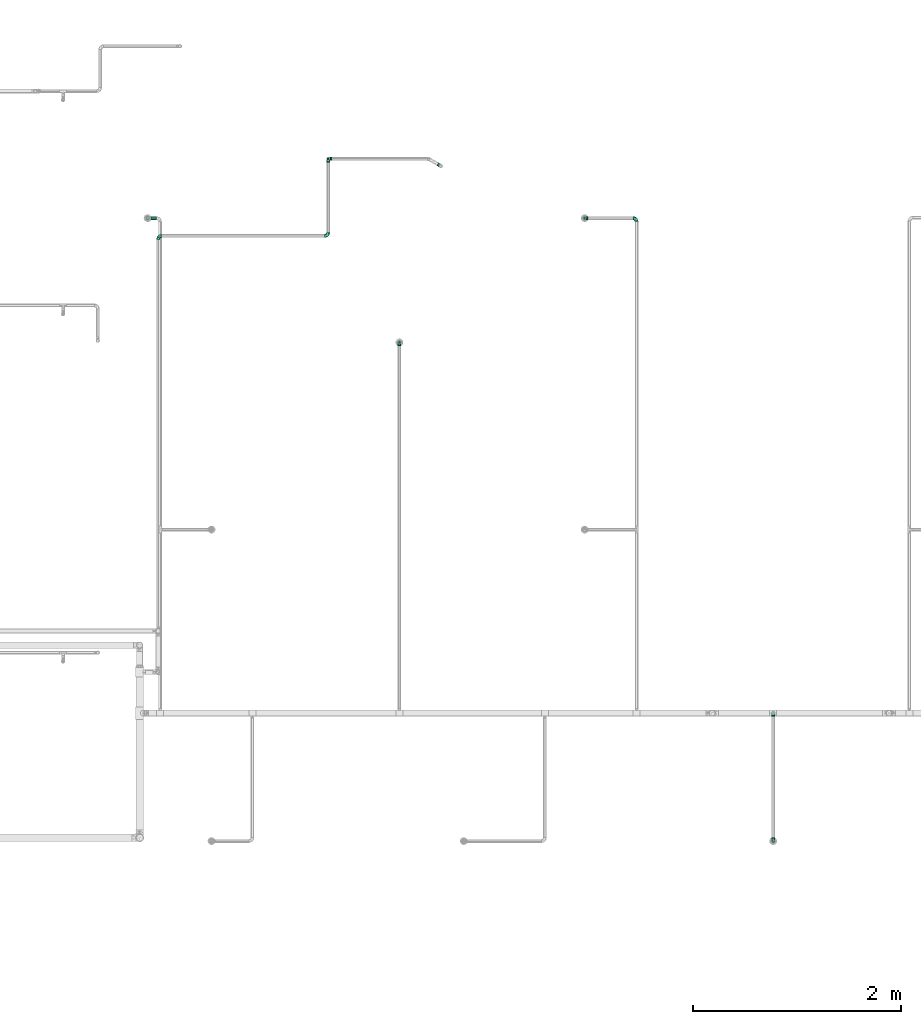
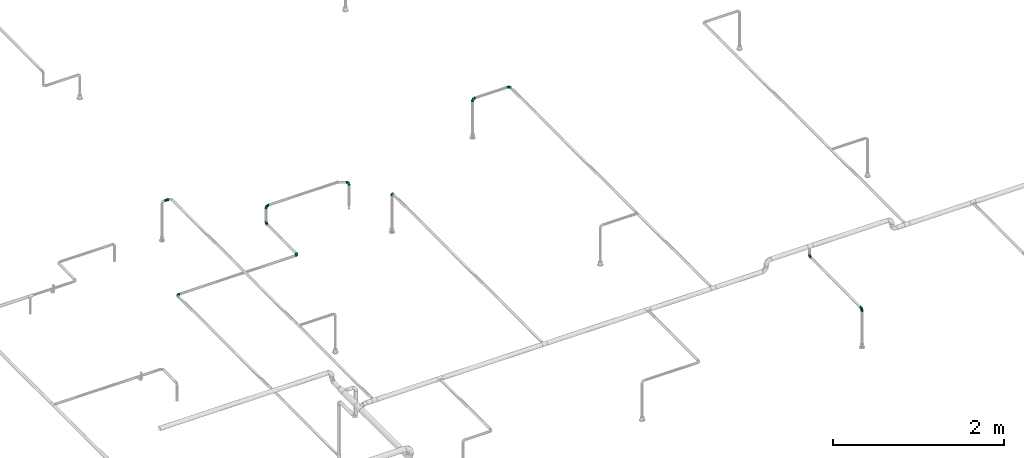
# One storey, part 70 of 95: 14 flow fittings, 1 flow segment.
"""IFC2X3 building model written with IfcOpenShell, lengths in millimetres."""

from ifc_helpers import new_model, entity, si_unit, converted_unit, derived_unit, direction, frame, origin_with_axes, origin_2d_with_axis, place, context, subcontext, project, spatial, hollow_circle, extrude, open_shell, surface_model, source, transform, mapped, type_object, element, save


model = new_model("IFC2X3")

# Units and contexts
model_context = context("Model", 3, precision=0.01, world=frame((0.0, 4.29681676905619e-09, 0.0)), true_north=direction((4.01073788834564e-13, 1.0)))
plan_context = context("Plan", 3, precision=0.01, world=frame((0.0, 4.29681676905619e-09, 0.0)), true_north=direction((4.01073788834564e-13, 1.0)))
body_context = subcontext(model_context, "Body", "Model", "MODEL_VIEW")
ifc_project = project(units=[converted_unit("PLANEANGLEUNIT", "DEGREE", entity("IfcPositiveLengthMeasure", 0.0174532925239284), si_unit("PLANEANGLEUNIT", "RADIAN"), dimensions=[0, 0, 0, 0, 0, 0, 0]), si_unit("AREAUNIT", "SQUARE_METRE"), si_unit("LENGTHUNIT", "METRE", prefix="MILLI"), si_unit("MASSUNIT", "GRAM", prefix="KILO"), si_unit("POWERUNIT", "WATT"), si_unit("PRESSUREUNIT", "PASCAL"), si_unit("FORCEUNIT", "NEWTON", prefix="KILO"), si_unit("ELECTRICVOLTAGEUNIT", "VOLT"), si_unit("ELECTRICCURRENTUNIT", "AMPERE"), si_unit("THERMODYNAMICTEMPERATUREUNIT", "DEGREE_CELSIUS"), si_unit("TIMEUNIT", "SECOND"), si_unit("VOLUMEUNIT", "CUBIC_METRE"), derived_unit("LINEARVELOCITYUNIT", [(si_unit("LENGTHUNIT", "METRE"), 1), (si_unit("TIMEUNIT", "SECOND"), -1)]), derived_unit("VOLUMETRICFLOWRATEUNIT", [(si_unit("VOLUMEUNIT", "CUBIC_METRE"), 1), (si_unit("TIMEUNIT", "SECOND"), -1)]), derived_unit("THERMALTRANSMITTANCEUNIT", [(si_unit("POWERUNIT", "WATT"), 1), (si_unit("THERMODYNAMICTEMPERATUREUNIT", "KELVIN"), -1), (si_unit("AREAUNIT", "SQUARE_METRE"), -1)]), derived_unit("SOUNDPRESSUREUNIT", [(si_unit("PRESSUREUNIT", "PASCAL"), 1)])], contexts=[model_context, plan_context])

# Site, building, storey
site_placement = place(None, frame((0.0, -4.29681676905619e-09, 0.0), z_axis=(0.0, 0.0, 1.0), x_axis=(1.0, 0.0, 0.0)))
site = spatial("IfcSite", under=ifc_project, at=site_placement, CompositionType="ELEMENT")
building_placement = place(site_placement, frame((0.0, 4.29681676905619e-09, 0.0), z_axis=(0.0, 0.0, 1.0), x_axis=(1.0, 0.0, 0.0)))
building = spatial("IfcBuilding", under=site, at=building_placement, Name="mc-building", CompositionType="ELEMENT")
storey_placement = place(building_placement, frame((0.0, 0.0, 210900.0), z_axis=(0.0, 0.0, 1.0), x_axis=(1.0, 0.0, 0.0)))
storey = spatial("IfcBuildingStorey", under=building, at=storey_placement, Name="Nivå F", CompositionType="ELEMENT", Elevation=210900.0)

# Flow fittings
pipe_fitting_type_1 = type_object("IfcPipeFittingType", Name="magi_pipe_fe_reducer_centric_short_NOR", PredefinedType="TRANSITION")
shared_shape_1 = source(origin_with_axes(), body_context, "Body", "SurfaceModel", [
    surface_model("IfcShellBasedSurfaceModel", [(14.4, 5.35, -9.26647), (14.4, 0.0, -10.7), (14.4, 2.76936, -10.33541), (14.4, 10.33541, -2.76936), (14.4, 7.56604, -7.56604), (14.4, -10.33541, -2.76936), (14.4, 9.26647, -5.35), (14.4, 0.0, 10.7), (14.4, -5.35, -9.26647), (14.4, -2.76936, -10.33541), (14.4, -7.56604, -7.56604), (14.4, -9.26647, -5.35), (14.4, 10.7, 0.0), (14.4, 10.33541, 2.76936), (14.4, 9.26647, 5.35), (14.4, 7.56604, 7.56604), (14.4, 2.76936, 10.33541), (14.4, 5.35, 9.26647), (14.4, -10.33541, 2.76936), (14.4, -7.56604, 7.56604), (14.4, -9.26647, 5.35), (14.4, -10.7, 0.0), (14.4, -2.76936, 10.33541), (14.4, -5.35, 9.26647), (12.4, 2.76936, 10.33541), (12.4, -10.33541, -2.76936), (12.4, 0.0, 10.7), (12.4, 5.35, 9.26647), (12.4, 7.56604, 7.56604), (12.4, 9.26647, 5.35), (12.4, 10.33541, 2.76936), (12.4, -10.33541, 2.76936), (12.4, -2.76936, 10.33541), (12.4, -7.56604, 7.56604), (12.4, -5.35, 9.26647), (12.4, -9.26647, 5.35), (12.4, -10.7, 0.0), (12.4, 10.33541, -2.76936), (12.4, 5.35, -9.26647), (12.4, 9.26647, -5.35), (12.4, 7.56604, -7.56604), (12.4, 2.76936, -10.33541), (12.4, -9.26647, -5.35), (12.4, -5.35, -9.26647), (12.4, -7.56604, -7.56604), (12.4, 0.0, -10.7), (12.4, -2.76936, -10.33541), (12.4, 10.7, 0.0), (-2.0, 11.9501, 11.9501), (-2.0, 0.0, 16.9), (-2.0, 4.37404, 16.32415), (-2.0, 8.45, 14.63583), (-2.0, 14.63583, 8.45), (-2.0, 16.32415, 4.37404), (-2.0, -16.32415, 4.37404), (-2.0, -8.45, 14.63583), (-2.0, -14.63583, 8.45), (-2.0, -11.9501, 11.9501), (-2.0, -4.37404, 16.32415), (-2.0, -16.32415, -4.37404), (-2.0, -16.9, 0.0), (-2.0, -8.45, -14.63583), (-2.0, 16.32415, -4.37404), (-2.0, 11.9501, -11.9501), (-2.0, 14.63583, -8.45), (-2.0, 8.45, -14.63583), (-2.0, 4.37404, -16.32415), (-2.0, 0.0, -16.9), (-2.0, -11.9501, -11.9501), (-2.0, -14.63583, -8.45), (-2.0, -4.37404, -16.32415), (-2.0, 16.9, 0.0), (0.0, 4.37404, -16.32415), (0.0, 8.45, -14.63583), (0.0, 11.9501, -11.9501), (0.0, 0.0, -16.9), (0.0, 16.32415, -4.37404), (0.0, 16.32415, 4.37404), (0.0, 14.63583, -8.45), (0.0, -8.45, -14.63583), (0.0, -4.37404, -16.32415), (0.0, -11.9501, -11.9501), (0.0, -16.32415, -4.37404), (0.0, -14.63583, -8.45), (0.0, -16.32415, 4.37404), (0.0, 16.9, 0.0), (0.0, 14.63583, 8.45), (0.0, 11.9501, 11.9501), (0.0, 4.37404, 16.32415), (0.0, 8.45, 14.63583), (0.0, 0.0, 16.9), (0.0, -14.63583, 8.45), (0.0, -16.9, 0.0), (0.0, -8.45, 14.63583), (0.0, -11.9501, 11.9501), (0.0, -4.37404, 16.32415), (12.4, 9.3625, -2.31662), (0.0, 14.42505, -5.97505), (0.0, 15.66253, -2.98753), (12.4, -6.6875, -6.94985), (0.0, -13.18758, -8.96258), (0.0, 2.98753, -15.66253), (12.4, 0.0, -9.26647), (12.4, 6.6875, -6.94985), (0.0, 8.96258, -13.18758), (12.4, -9.3625, -2.31662), (0.0, -15.66253, -2.98753), (0.0, -14.42505, -5.97505), (0.0, 5.97505, -14.42505), (0.0, -2.98753, -15.66253), (0.0, -8.96258, -13.18758), (0.0, 13.18758, -8.96258), (12.4, 8.025, -4.63324), (12.4, -2.675, -9.26647), (12.4, 2.675, -9.26647), (0.0, -5.97505, -14.42505), (12.4, -8.025, -4.63324), (12.4, -9.3625, 2.31662), (0.0, -14.42505, 5.97505), (0.0, -15.66253, 2.98753), (12.4, 6.6875, 6.94985), (0.0, 13.18758, 8.96258), (0.0, -2.98753, 15.66253), (12.4, 0.0, 9.26647), (12.4, -6.6875, 6.94985), (0.0, -8.96258, 13.18758), (12.4, 9.3625, 2.31662), (0.0, 15.66253, 2.98753), (0.0, 14.42505, 5.97505), (0.0, -5.97505, 14.42505), (0.0, 2.98753, 15.66253), (0.0, 8.96258, 13.18758), (0.0, -13.18758, 8.96258), (12.4, -8.025, 4.63324), (12.4, 2.675, 9.26647), (12.4, -2.675, 9.26647), (0.0, 5.97505, 14.42505), (12.4, 8.025, 4.63324)], [open_shell([[[0, 1, 2]], [[3, 0, 4]], [[5, 0, 3]], [[3, 4, 6]], [[7, 5, 3]], [[1, 8, 9]], [[1, 0, 8]], [[10, 5, 11]], [[5, 10, 8]], [[0, 5, 8]], [[3, 12, 13]], [[13, 14, 15]], [[13, 15, 16]], [[7, 3, 16]], [[16, 15, 17]], [[7, 18, 5]], [[18, 19, 20]], [[21, 5, 18]], [[19, 22, 23]], [[22, 19, 18]], [[7, 22, 18]], [[13, 16, 3]], [[24, 25, 26]], [[27, 25, 24]], [[28, 29, 30]], [[28, 25, 27]], [[31, 26, 25]], [[32, 33, 34]], [[33, 32, 31]], [[33, 31, 35]], [[32, 26, 31]], [[31, 25, 36]], [[30, 37, 28]], [[25, 28, 37]], [[38, 37, 39]], [[37, 38, 25]], [[38, 39, 40]], [[41, 25, 38]], [[42, 43, 44]], [[43, 42, 25]], [[43, 45, 46]], [[43, 25, 41]], [[41, 45, 43]], [[37, 30, 47]], [[25, 5, 36]], [[42, 11, 25]], [[8, 44, 43]], [[42, 44, 10]], [[9, 43, 46]], [[25, 11, 5]], [[5, 21, 36]], [[9, 8, 43]], [[10, 44, 8]], [[10, 11, 42]], [[1, 9, 46]], [[46, 45, 1]], [[41, 2, 45]], [[38, 0, 41]], [[6, 40, 39]], [[38, 40, 4]], [[3, 39, 37]], [[38, 4, 0]], [[0, 2, 41]], [[12, 3, 37]], [[6, 39, 3]], [[6, 4, 40]], [[47, 12, 37]], [[45, 2, 1]], [[30, 13, 47]], [[29, 14, 30]], [[17, 28, 27]], [[29, 28, 15]], [[16, 27, 24]], [[30, 14, 13]], [[13, 12, 47]], [[16, 17, 27]], [[15, 28, 17]], [[15, 14, 29]], [[7, 16, 24]], [[24, 26, 7]], [[32, 22, 26]], [[34, 23, 32]], [[20, 33, 35]], [[34, 33, 19]], [[18, 35, 31]], [[34, 19, 23]], [[23, 22, 32]], [[21, 18, 31]], [[20, 35, 18]], [[20, 19, 33]], [[36, 21, 31]], [[26, 22, 7]], [[48, 49, 50]], [[48, 50, 51]], [[48, 52, 53]], [[48, 53, 49]], [[49, 53, 54]], [[55, 56, 57]], [[55, 58, 49]], [[56, 55, 49]], [[49, 54, 56]], [[54, 59, 60]], [[54, 53, 61]], [[53, 62, 63]], [[63, 62, 64]], [[63, 65, 66]], [[61, 53, 63]], [[67, 63, 66]], [[59, 68, 69]], [[68, 59, 61]], [[61, 67, 70]], [[59, 54, 61]], [[63, 67, 61]], [[53, 71, 62]], [[72, 73, 74]], [[75, 72, 74]], [[74, 76, 77]], [[76, 74, 78]], [[74, 77, 79]], [[75, 79, 80]], [[75, 74, 79]], [[81, 82, 83]], [[82, 81, 79]], [[79, 84, 82]], [[77, 76, 85]], [[77, 86, 87]], [[77, 87, 88]], [[88, 84, 79]], [[88, 87, 89]], [[84, 88, 90]], [[90, 91, 84]], [[92, 82, 84]], [[91, 93, 94]], [[91, 90, 93]], [[93, 90, 95]], [[79, 77, 88]], [[59, 82, 60]], [[69, 83, 59]], [[79, 68, 61]], [[69, 68, 81]], [[80, 61, 70]], [[59, 83, 82]], [[82, 92, 60]], [[80, 79, 61]], [[81, 68, 79]], [[81, 83, 69]], [[75, 80, 70]], [[70, 67, 75]], [[66, 72, 67]], [[65, 73, 66]], [[78, 63, 64]], [[65, 63, 74]], [[76, 64, 62]], [[65, 74, 73]], [[73, 72, 66]], [[85, 76, 62]], [[78, 64, 76]], [[78, 74, 63]], [[71, 85, 62]], [[67, 72, 75]], [[53, 77, 71]], [[52, 86, 53]], [[89, 48, 51]], [[52, 48, 87]], [[88, 51, 50]], [[53, 86, 77]], [[77, 85, 71]], [[88, 89, 51]], [[87, 48, 89]], [[87, 86, 52]], [[90, 88, 50]], [[50, 49, 90]], [[58, 95, 49]], [[55, 93, 58]], [[91, 57, 56]], [[55, 57, 94]], [[84, 56, 54]], [[55, 94, 93]], [[93, 95, 58]], [[92, 84, 54]], [[91, 56, 84]], [[91, 94, 57]], [[60, 92, 54]], [[49, 95, 90]], [[27, 34, 47]], [[47, 34, 43]], [[43, 38, 47]], [[43, 34, 36]], [[90, 87, 94]], [[92, 94, 87]], [[87, 74, 92]], [[75, 92, 74]], [[81, 92, 75]], [[74, 87, 85]], [[96, 97, 98]], [[81, 99, 100]], [[101, 102, 75]], [[98, 85, 47]], [[74, 103, 104]], [[104, 103, 38]], [[105, 106, 107]], [[38, 108, 104]], [[102, 109, 75]], [[110, 99, 81]], [[47, 96, 98]], [[103, 111, 112]], [[109, 102, 113]], [[36, 92, 106]], [[102, 101, 114]], [[110, 115, 43]], [[96, 112, 97]], [[107, 116, 105]], [[36, 106, 105]], [[113, 115, 109]], [[43, 115, 113]], [[116, 107, 100]], [[108, 38, 114]], [[111, 103, 74]], [[111, 97, 112]], [[99, 110, 43]], [[116, 100, 99]], [[101, 108, 114]], [[117, 118, 119]], [[87, 120, 121]], [[122, 123, 90]], [[119, 92, 36]], [[94, 124, 125]], [[125, 124, 34]], [[126, 127, 128]], [[34, 129, 125]], [[123, 130, 90]], [[131, 120, 87]], [[36, 117, 119]], [[124, 132, 133]], [[130, 123, 134]], [[47, 85, 127]], [[123, 122, 135]], [[131, 136, 27]], [[117, 133, 118]], [[128, 137, 126]], [[47, 127, 126]], [[134, 136, 130]], [[27, 136, 134]], [[137, 128, 121]], [[129, 34, 135]], [[132, 124, 94]], [[132, 118, 133]], [[120, 131, 27]], [[137, 121, 120]], [[122, 129, 135]]])]),
])
for number, where, z_axis, x_axis, name in (
    (1, (522678.57312, 455598.0, 3769.25200000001), (0.0, -1.0, 0.0), (0.0, 0.0, -1.0), "magi_pipe_fe_reducer_centric_short_NOR"),
    (2, (526881.79186, 455598.02191, 3769.25200000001), (0.0, -0.99999999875, -4.99999999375e-05), (0.0, 4.99999999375e-05, -0.99999999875), "magi_pipe_fe_reducer_centric_short_NOR"),
    (3, (528694.26458, 449607.85, 3769.25200000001), (-0.000893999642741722, -0.99999960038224, 0.0), (0.0, 0.0, -1.0), "magi_pipe_fe_reducer_centric_short_NOR"),
    (4, (525100.25962, 454403.32191, 3769.25200000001), (1.0, 0.0, 0.0), (0.0, 0.0, -1.0), "magi_pipe_fe_reducer_centric_short_NOR"),
):
    element("IfcFlowFitting", number, at=place(storey_placement, frame(where, z_axis=z_axis, x_axis=x_axis)), inside=storey, type_object=pipe_fitting_type_1, Name=name, context=body_context, shape_type="MappedRepresentation", body=[
        mapped(shared_shape_1, transform((0.0, 0.0, 0.0), scale=1.0)),
    ])
pipe_fitting_type_2 = type_object("IfcPipeFittingType", Name="magi_pipe_fe_elbow_short_001", PredefinedType="BEND")
shared_shape_2 = source(origin_with_axes(), body_context, "Body", "SurfaceModel", [
    surface_model("IfcShellBasedSurfaceModel", [(-33.8, 8.45, -14.63583), (-33.8, 4.37404, -16.32415), (-33.8, 11.9501, -11.9501), (-33.8, -11.9501, -11.9501), (-33.8, -14.63583, -8.45), (-33.8, -8.45, -14.63583), (-33.8, 0.0, -16.9), (-33.8, -4.37404, -16.32415), (-33.8, -4.37404, 16.32415), (-33.8, 0.0, 16.9), (-33.8, -8.45, 14.63583), (-33.8, 16.32415, -4.37404), (-33.8, 14.63583, -8.45), (-33.8, -16.32415, -4.37404), (-33.8, -16.9, 0.0), (-33.8, -16.32415, 4.37404), (-33.8, 11.9501, 11.9501), (-33.8, 14.63583, 8.45), (-33.8, 16.32415, 4.37404), (-33.8, 4.37404, 16.32415), (-33.8, 8.45, 14.63583), (-33.8, -14.63583, 8.45), (-33.8, -11.9501, 11.9501), (-33.8, 16.9, 0.0), (-11.9501, 33.8, -11.9501), (0.0, 33.8, -16.9), (-4.37404, 33.8, -16.32415), (-8.45, 33.8, -14.63583), (-14.63583, 33.8, -8.45), (-16.32415, 33.8, -4.37404), (14.63583, 33.8, -8.45), (8.45, 33.8, 14.63583), (16.32415, 33.8, -4.37404), (8.45, 33.8, -14.63583), (11.9501, 33.8, -11.9501), (4.37404, 33.8, -16.32415), (16.32415, 33.8, 4.37404), (16.9, 33.8, 0.0), (-11.9501, 33.8, 11.9501), (-16.32415, 33.8, 4.37404), (-14.63583, 33.8, 8.45), (-8.45, 33.8, 14.63583), (-4.37404, 33.8, 16.32415), (11.9501, 33.8, 11.9501), (14.63583, 33.8, 8.45), (0.0, 33.8, 16.9), (4.37404, 33.8, 16.32415), (-16.9, 33.8, 0.0), (-24.79389, -13.12945, 9.48721), (-22.19287, -9.75018, 12.59315), (-24.09897, -14.97035, 0.0), (-14.93934, -10.76256, 8.5297), (-22.46095, -14.75051, 5.27077), (14.75051, 22.46094, 5.27077), (11.9251, 13.23888, 4.33236), (13.04069, 14.39795, 0.0), (7.71387, 13.68847, 11.55891), (9.75018, 22.19287, 12.59315), (4.10169, 13.0571, 14.04018), (-24.84007, -6.39063, 15.2048), (-25.81779, -2.23879, 16.61097), (-23.66549, 2.59054, 16.87119), (-26.50418, 14.06512, 11.08152), (-24.21253, 17.66365, 7.72657), (-29.58514, 15.86957, 7.00283), (-6.17382, -7.5455, 0.0), (-13.23888, -11.9251, 4.33236), (-14.39795, -13.04069, 0.0), (-17.81434, 18.87373, 11.97104), (-6.30846, 29.15138, 15.82987), (-2.31622, 25.28002, 16.85849), (-29.23923, 10.23435, 13.77053), (-1.45439, -2.85688, 7.61475), (-0.28326, 0.34872, 10.09509), (-5.74484, -4.04709, 10.4122), (-4.41137, 11.31918, 16.59407), (-8.39727, 3.10034, 15.7812), (-1.72649, 9.1306, 15.53089), (-17.39909, 24.75344, 7.64977), (-26.19233, 20.0512, 0.0), (-28.14518, 17.29657, 4.25857), (-26.05147, 6.6281, 15.96447), (-5.87354, 16.61944, 16.86968), (-12.51807, 12.51807, 16.48937), (-10.06312, 7.38516, 16.81295), (-3.01882, 3.01882, 13.81718), (-13.0571, -4.10169, 14.04018), (-16.82553, -0.15166, 16.38038), (10.76256, 14.93934, 8.5297), (13.12945, 24.79389, 9.48721), (6.39063, 24.84007, 15.2048), (2.23879, 25.81779, 16.61097), (-13.68847, -7.71387, 11.55891), (14.97035, 24.09897, 0.0), (-7.30894, 22.89991, 16.09489), (-10.67958, 26.17414, 14.008), (-12.78295, 18.26924, 15.06066), (-13.88562, 22.45231, 12.93244), (-18.04944, 15.16501, 14.04434), (-23.11658, 20.08178, 4.02986), (-21.84989, 21.84989, 0.0), (-18.55817, 25.48277, 3.93065), (-13.95142, 26.94732, 11.03289), (-18.57098, 7.23906, 16.59756), (-16.58335, 4.14122, 16.89279), (-17.96666, 11.46709, 15.63151), (-9.84453, 17.54304, 16.18938), (0.15166, 16.82553, 16.38038), (-23.27207, 11.47201, 14.23154), (3.84842, 5.86994, 10.70473), (-8.0212, -7.54413, 7.93275), (1.00345, -2.19508, 4.57414), (5.13203, 3.01004, 5.90201), (5.24161, 1.7543, 2.53265), (8.70457, 7.04947, 3.99182), (-20.0512, 26.19233, 0.0), (8.4852, 8.76699, 7.09296), (-4.55488, -6.72064, 4.90681), (2.05031, -2.05031, 0.0), (7.5455, 6.17382, 0.0), (-26.75399, 2.1369, -16.845), (-14.61995, 24.73803, -11.27736), (-28.45274, -13.45335, -9.81895), (-26.00469, 6.63555, -15.96645), (-23.06726, 20.04573, -4.26202), (-13.80647, -4.26506, -14.17873), (-14.67501, -0.21081, -16.07388), (-6.7902, -0.2828, -13.8478), (-24.53586, 11.08096, -14.13417), (-26.72048, 14.00837, -11.05776), (10.0967, 24.44989, -12.75976), (5.83237, 21.40218, -15.03047), (6.66249, 28.54238, -15.38093), (-20.38182, 15.48705, -12.74596), (12.53268, 21.23441, -9.15363), (12.54494, 15.67504, -5.54878), (9.7522, 12.89279, -8.66343), (-15.65186, 19.64213, -13.01327), (-12.03528, 20.66498, -14.67665), (-15.61907, 15.61906, -14.83879), (-25.56551, -15.26206, 0.0), (-24.65452, -15.12934, -5.50955), (13.45335, 28.45274, -9.81895), (15.12934, 24.65452, -5.50955), (-7.35442, -8.31014, -5.65563), (-15.67504, -12.54494, -5.54878), (-24.44989, -10.0967, -12.75976), (0.16522, 0.41303, -9.71728), (-5.70658, -5.33066, -8.89288), (-5.13869, -2.37198, -11.53565), (-21.23441, -12.53268, -9.15363), (0.71146, 7.93863, -14.09382), (0.21081, 14.67501, -16.07388), (3.49291, 14.42772, -14.76381), (-24.89911, -2.13088, -16.591), (-28.54238, -6.66249, -15.38093), (-18.44386, -7.71663, -13.26957), (2.13088, 24.89911, -16.591), (-28.64342, 17.44413, -2.89318), (1.70017, -1.28722, -5.09504), (-16.57067, 26.81947, -7.36596), (-17.69055, 27.4263, -3.76405), (-12.89279, -9.7522, -8.66343), (-5.96611, 5.96611, -15.95814), (-20.53709, 20.09345, -8.28985), (-2.1369, 26.75399, -16.845), (-6.89872, 24.58781, -16.02578), (-10.60739, 26.53157, -13.98044), (-21.40218, -5.83237, -15.03047), (2.93192, 5.89627, -11.55917), (6.89393, 12.61842, -11.82233), (5.58056, 5.95325, -8.79455), (-3.99512, 18.61798, -16.89635), (8.31014, 7.35442, -5.65563), (-9.1383, 9.86148, -16.89041), (-9.99983, 16.02119, -16.39699), (-16.68576, 9.78031, -16.34199), (-27.01915, 16.61158, -7.12979), (15.26206, 25.56551, 0.0), (-18.61798, 3.99512, -16.89635), (-19.37495, 27.82495, 0.0), (-12.61842, -6.89393, -11.82233), (-18.84705, 19.14018, -10.96545)], [open_shell([[[0, 1, 2]], [[3, 4, 5]], [[6, 7, 5]], [[8, 9, 10]], [[1, 6, 2]], [[11, 12, 2]], [[4, 2, 6]], [[2, 13, 10]], [[5, 4, 6]], [[2, 4, 13]], [[14, 15, 13]], [[11, 2, 16]], [[11, 17, 18]], [[11, 16, 17]], [[19, 20, 16]], [[16, 2, 10]], [[19, 16, 10]], [[21, 22, 15]], [[22, 13, 15]], [[22, 10, 13]], [[10, 9, 19]], [[11, 18, 23]], [[24, 25, 26]], [[24, 26, 27]], [[24, 28, 29]], [[25, 24, 30]], [[31, 32, 24]], [[33, 30, 34]], [[33, 35, 25]], [[25, 30, 33]], [[32, 30, 24]], [[32, 36, 37]], [[38, 24, 29]], [[39, 40, 29]], [[40, 38, 29]], [[38, 41, 42]], [[38, 31, 24]], [[31, 38, 42]], [[36, 43, 44]], [[36, 32, 43]], [[31, 45, 46]], [[32, 31, 43]], [[42, 45, 31]], [[39, 29, 47]], [[22, 48, 49]], [[15, 14, 50]], [[51, 48, 52]], [[53, 54, 55]], [[48, 22, 21]], [[15, 52, 21]], [[56, 57, 58]], [[49, 10, 22]], [[49, 59, 10]], [[9, 60, 61]], [[62, 63, 64]], [[65, 66, 67]], [[57, 43, 31]], [[62, 68, 63]], [[42, 69, 70]], [[20, 71, 16]], [[8, 60, 9]], [[72, 73, 74]], [[75, 76, 77]], [[16, 62, 17]], [[40, 39, 78]], [[79, 23, 80]], [[64, 18, 17]], [[9, 61, 19]], [[19, 81, 20]], [[82, 83, 84]], [[74, 85, 86]], [[59, 86, 87]], [[88, 89, 57]], [[90, 31, 46]], [[44, 53, 36]], [[46, 45, 91]], [[54, 53, 88]], [[44, 89, 53]], [[92, 86, 49]], [[89, 44, 43]], [[10, 59, 8]], [[53, 55, 93]], [[93, 36, 53]], [[66, 52, 67]], [[94, 82, 70]], [[95, 96, 94]], [[97, 98, 96]], [[79, 99, 100]], [[41, 38, 95]], [[101, 100, 99]], [[68, 78, 63]], [[42, 41, 69]], [[23, 18, 80]], [[95, 94, 69]], [[78, 101, 99]], [[38, 102, 95]], [[70, 45, 42]], [[97, 95, 102]], [[15, 50, 52]], [[90, 57, 31]], [[57, 90, 58]], [[81, 19, 61]], [[103, 104, 84]], [[105, 81, 103]], [[38, 40, 102]], [[106, 96, 83]], [[94, 106, 82]], [[91, 70, 107]], [[71, 62, 16]], [[62, 108, 98]], [[86, 59, 49]], [[67, 52, 50]], [[60, 59, 87]], [[92, 49, 51]], [[86, 85, 76]], [[91, 90, 46]], [[37, 36, 93]], [[107, 77, 58]], [[107, 58, 90]], [[58, 85, 109]], [[110, 74, 92]], [[72, 74, 110]], [[66, 51, 52]], [[72, 111, 112]], [[113, 114, 112]], [[56, 88, 57]], [[52, 48, 21]], [[49, 48, 51]], [[57, 89, 43]], [[53, 89, 88]], [[103, 81, 61]], [[71, 81, 108]], [[18, 64, 80]], [[63, 78, 99]], [[47, 115, 101]], [[101, 115, 100]], [[40, 78, 102]], [[68, 102, 78]], [[97, 96, 95]], [[105, 98, 108]], [[103, 84, 83]], [[107, 70, 82]], [[76, 84, 87]], [[82, 84, 75]], [[70, 91, 45]], [[90, 91, 107]], [[59, 60, 8]], [[61, 60, 87]], [[73, 85, 74]], [[109, 112, 116]], [[103, 61, 104]], [[105, 103, 83]], [[96, 105, 83]], [[81, 105, 108]], [[96, 98, 105]], [[62, 98, 68]], [[61, 87, 104]], [[87, 84, 104]], [[86, 76, 87]], [[77, 76, 85]], [[58, 77, 85]], [[75, 77, 107]], [[82, 75, 107]], [[76, 75, 84]], [[81, 71, 20]], [[62, 71, 108]], [[95, 69, 41]], [[70, 69, 94]], [[62, 64, 17]], [[80, 63, 99]], [[63, 80, 64]], [[80, 99, 79]], [[66, 65, 117]], [[110, 66, 117]], [[112, 114, 116]], [[118, 117, 65]], [[110, 92, 51]], [[112, 111, 113]], [[119, 55, 54]], [[74, 86, 92]], [[58, 109, 56]], [[116, 56, 109]], [[66, 110, 51]], [[72, 110, 117]], [[111, 72, 117]], [[73, 112, 109]], [[117, 118, 111]], [[113, 111, 118]], [[118, 119, 113]], [[114, 119, 54]], [[119, 114, 113]], [[116, 54, 88]], [[54, 116, 114]], [[116, 88, 56]], [[112, 73, 72]], [[85, 73, 109]], [[78, 39, 101]], [[47, 101, 39]], [[102, 68, 97]], [[97, 68, 98]], [[82, 106, 83]], [[94, 96, 106]], [[1, 120, 6]], [[28, 24, 121]], [[3, 122, 4]], [[0, 123, 1]], [[100, 124, 79]], [[125, 126, 127]], [[128, 2, 129]], [[130, 131, 132]], [[128, 129, 133]], [[134, 135, 136]], [[137, 138, 139]], [[128, 0, 2]], [[67, 140, 141]], [[134, 142, 143]], [[141, 13, 4]], [[144, 65, 145]], [[146, 3, 5]], [[147, 148, 149]], [[145, 141, 150]], [[151, 152, 153]], [[154, 7, 6]], [[5, 155, 146]], [[150, 146, 156]], [[155, 5, 7]], [[143, 135, 134]], [[35, 157, 25]], [[23, 79, 158]], [[148, 159, 144]], [[160, 161, 29]], [[145, 162, 144]], [[163, 152, 151]], [[29, 28, 160]], [[121, 164, 160]], [[33, 34, 130]], [[25, 165, 26]], [[26, 165, 166]], [[142, 34, 30]], [[24, 27, 167]], [[124, 161, 164]], [[157, 35, 132]], [[155, 154, 168]], [[123, 0, 128]], [[169, 170, 171]], [[172, 157, 152]], [[26, 166, 27]], [[132, 35, 33]], [[142, 130, 34]], [[168, 154, 126]], [[136, 135, 173]], [[133, 137, 139]], [[2, 12, 129]], [[170, 131, 130]], [[30, 32, 143]], [[172, 174, 175]], [[176, 123, 128]], [[158, 177, 11]], [[135, 55, 119]], [[167, 27, 166]], [[175, 166, 172]], [[137, 167, 138]], [[122, 141, 4]], [[140, 14, 13]], [[32, 37, 178]], [[170, 130, 134]], [[152, 157, 131]], [[165, 157, 172]], [[153, 170, 151]], [[152, 163, 174]], [[168, 125, 156]], [[122, 146, 150]], [[120, 154, 6]], [[179, 174, 126]], [[179, 126, 154]], [[126, 163, 127]], [[162, 145, 150]], [[140, 13, 141]], [[32, 178, 143]], [[55, 143, 178]], [[177, 129, 12]], [[128, 133, 139]], [[176, 128, 139]], [[120, 123, 179]], [[121, 160, 28]], [[161, 100, 180]], [[166, 175, 138]], [[121, 24, 167]], [[161, 47, 29]], [[79, 124, 158]], [[124, 164, 177]], [[161, 124, 100]], [[136, 171, 170]], [[127, 163, 151]], [[147, 171, 159]], [[148, 144, 162]], [[127, 151, 169]], [[127, 181, 125]], [[129, 177, 164]], [[12, 11, 177]], [[159, 65, 144]], [[67, 141, 145]], [[143, 55, 135]], [[135, 119, 173]], [[123, 120, 1]], [[154, 120, 179]], [[157, 165, 25]], [[166, 165, 172]], [[172, 152, 174]], [[176, 139, 175]], [[126, 174, 163]], [[176, 174, 179]], [[174, 176, 175]], [[123, 176, 179]], [[150, 181, 162]], [[127, 149, 181]], [[181, 148, 162]], [[159, 148, 147]], [[171, 136, 173]], [[170, 134, 136]], [[159, 171, 173]], [[171, 147, 169]], [[169, 147, 149]], [[151, 170, 169]], [[164, 182, 129]], [[182, 121, 137]], [[181, 149, 148]], [[169, 149, 127]], [[182, 137, 133]], [[167, 137, 121]], [[166, 138, 167]], [[175, 139, 138]], [[129, 182, 133]], [[121, 182, 164]], [[161, 160, 164]], [[47, 161, 180]], [[177, 158, 124]], [[23, 158, 11]], [[130, 132, 33]], [[157, 132, 131]], [[143, 142, 30]], [[130, 142, 134]], [[154, 155, 7]], [[146, 155, 168]], [[146, 122, 3]], [[141, 122, 150]], [[152, 131, 153]], [[159, 119, 118]], [[67, 145, 65]], [[170, 153, 131]], [[119, 159, 173]], [[159, 118, 65]], [[156, 125, 181]], [[126, 125, 168]], [[150, 156, 181]], [[168, 156, 146]]])]),
])
for number, where, z_axis, x_axis, name in (
    (5, (527381.43724, 455598.0, 4315.0), (0.0, 0.0, 1.0), (0.0, 1.0, 0.0), "magi_pipe_fe_elbow_short_001"),
    (6, (528694.26458, 449607.85, 4310.0), (-1.0, 0.0, 0.0), (0.0, 0.0, 1.0), "magi_pipe_fe_elbow_short_001"),
    (7, (528694.26458, 450838.0, 4310.0), (-1.0, 0.0, 0.0), (0.0, 0.0, -1.0), "magi_pipe_fe_elbow_short_001"),
    (8, (526881.79186, 455598.0, 4315.0), (0.0, -0.9999999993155, -3.69999999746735e-05), (-1.0, 0.0, 0.0), "magi_pipe_fe_elbow_short_001"),
    (9, (522780.97009, 455428.04949, 3046.86988000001), (0.0, 0.0, 1.0), (-1.0, 0.0, 0.0), "magi_pipe_fe_elbow_short_001"),
    (10, (524415.97009, 455428.04949, 3046.86988000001), (0.0, 0.0, 1.0), (1.0, 0.0, 0.0), "magi_pipe_fe_elbow_short_001"),
    (11, (524415.97009, 456168.04949, 3046.86988000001), (1.0, 0.0, 0.0), (0.0, 1.0, 0.0), "magi_pipe_fe_elbow_short_001"),
    (12, (524415.97009, 456168.04949, 3300.0), (0.0, 1.0, 0.0), (0.0, 0.0, 1.0), "magi_pipe_fe_elbow_short_001"),
    (13, (525498.46365, 456100.21455, 3300.0), (0.500000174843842, 0.866025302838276, 0.0), (0.866025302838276, -0.500000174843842, 0.0), "magi_pipe_fe_elbow_short_001"),
    (14, (525100.25962, 454403.32191, 4315.0), (-1.0, 0.0, 0.0), (0.0, 1.0, 0.0), "magi_pipe_fe_elbow_short_001"),
):
    element("IfcFlowFitting", number, at=place(storey_placement, frame(where, z_axis=z_axis, x_axis=x_axis)), inside=storey, type_object=pipe_fitting_type_2, Name=name, context=body_context, shape_type="MappedRepresentation", body=[
        mapped(shared_shape_2, transform((0.0, 0.0, 0.0), scale=1.0)),
    ])

# Flow segment
pipe_segment_type = type_object("IfcPipeSegmentType", Name="Stålrør normaltykke", PredefinedType="RIGIDSEGMENT")
shared_shape_3 = source(origin_with_axes(), body_context, "Body", "SweptSolid", [
    extrude(hollow_circle(Radius=16.9, WallThickness=2.0, at=origin_2d_with_axis()), frame((0.0, 0.0, 0.0), z_axis=(1.0, 0.0, 0.0), x_axis=(0.0, 1.0, 0.0)), (0.0, 0.0, 1.0), 52.4),
])
flow_segment_placement = place(storey_placement, frame((522764.77312, 455598.0, 4315.0), z_axis=(0.0, 0.0, 1.0), x_axis=(-1.0, 0.0, 0.0)))
element("IfcFlowSegment", 15, at=flow_segment_placement, inside=storey, type_object=pipe_segment_type, Name="Stålrør normaltykke", context=body_context, shape_type="MappedRepresentation", body=[
    mapped(shared_shape_3, transform((0.0, 0.0, 0.0), scale=1.0)),
])

save(model, "model.ifc")
